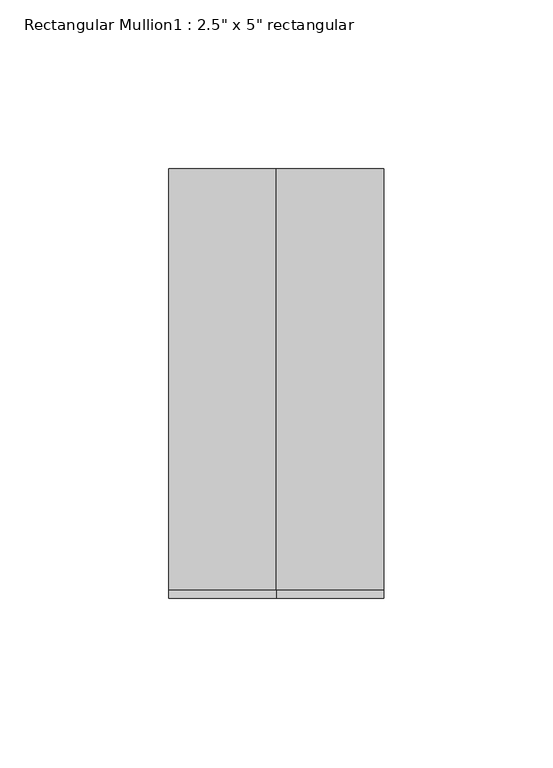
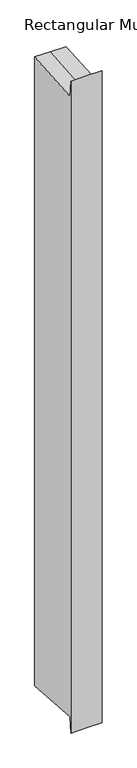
"""IFC4 building model written with IfcOpenShell, lengths in millimetres: member geometry."""

from ifc_helpers import new_model, si_unit, origin, place, context, project, spatial, faceted_brep, source, transform, mapped, element, save


def member_995572cb(model_context):
    return source(origin(), model_context, "Body", "Brep", [
        faceted_brep([(-31.75, 63.5, 4.5282284), (0.0, 63.5, 4.5282284), (31.75, 63.5, 4.5282284), (31.75, 63.5, -1343.9489353), (0.0, 63.5, -1343.9489353), (-31.75, 63.5, -1343.9489353), (-31.75, -63.5, 29.4471051), (-31.75, -61.0333155, -4.5163328), (-31.75, -61.0333155, -1334.904374), (-31.75, -63.5, -1368.8678119), (31.75, -63.5, 29.4471051), (0.0, -63.5, 29.4471051), (0.0, -63.5, -1368.8678119), (31.75, -63.5, -1368.8678119), (31.75, -61.0333155, -4.5163328), (31.75, -61.0333155, -1334.904374), (0.0, -61.0333155, -4.5163328), (0.0, -61.0333155, -1334.904374)], [[[0, 1, 2, 3, 4, 5]], [[6, 7, 0, 5, 8, 9]], [[10, 11, 6, 9, 12, 13]], [[2, 14, 10, 13, 15, 3]], [[2, 1, 16, 14]], [[1, 0, 7, 16]], [[7, 6, 11, 16]], [[11, 10, 14, 16]], [[3, 15, 17, 4]], [[15, 13, 12, 17]], [[12, 9, 8, 17]], [[8, 5, 4, 17]]]),
    ])


if __name__ == "__main__":
    model = new_model("IFC4")
    model_context = context("Model", 3, world=origin())
    ifc_project = project(units=[si_unit("LENGTHUNIT", "METRE", prefix="MILLI")], contexts=[model_context])
    site = spatial("IfcSite", under=ifc_project)
    building = spatial("IfcBuilding", under=site)
    placement = place(None, origin())
    member_shape = member_995572cb(model_context)
    element("IfcMember", 1, ObjectType="Rectangular Mullion1 : 2.5\" x 5\" rectangular", at=placement, inside=building, context=model_context, shape_type="MappedRepresentation", body=[
        mapped(member_shape, transform((0.0, 0.0, 0.0), x_axis=(1.0, 0.0, 0.0), y_axis=(0.0, 1.0, 0.0), z_axis=(0.0, 0.0, 1.0))),
    ])
    save(model, "model.ifc")
